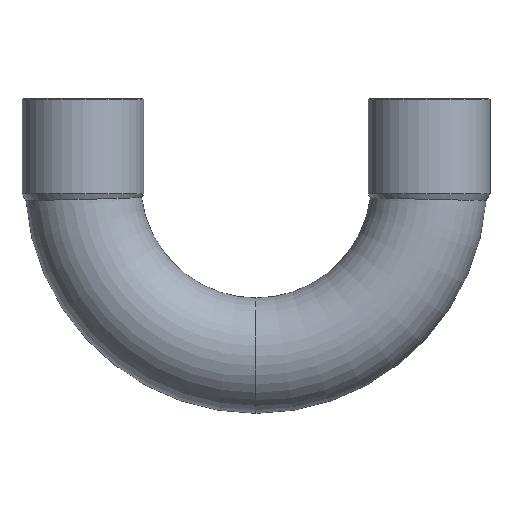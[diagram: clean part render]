
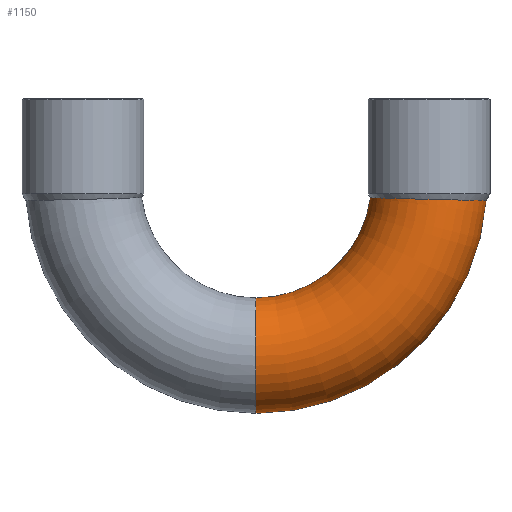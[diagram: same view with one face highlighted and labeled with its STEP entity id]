
A CAD part, front view. The second image highlights one B-rep face of the part: STEP entity #1150.
In plain terms, the highlighted toroidal (fillet/blend) face has major radius 33 mm and minor radius 11 mm.
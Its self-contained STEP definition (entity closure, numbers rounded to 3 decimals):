
#51=CARTESIAN_POINT('',(22.035,0.,-44.0));
#52=VERTEX_POINT('',#51);
#85=CARTESIAN_POINT('',(22.035,0.,-22.0));
#86=VERTEX_POINT('',#85);
#109=CARTESIAN_POINT('',(65.901,0.,-3.432));
#110=VERTEX_POINT('',#109);
#111=CARTESIAN_POINT('',(22.035,0.,0.0));
#112=DIRECTION('',(0.0,-1.0,0.0));
#113=DIRECTION('',(0.0,0.0,-1.0));
#114=AXIS2_PLACEMENT_3D('',#111,#112,#113);
#115=CIRCLE('',#114,44.0);
#116=EDGE_CURVE('',#52,#110,#115,.T.);
#119=CARTESIAN_POINT('',(43.847,0.,-2.874));
#120=VERTEX_POINT('',#119);
#121=CARTESIAN_POINT('',(22.035,0.,0.0));
#122=DIRECTION('',(0.0,1.0,0.0));
#123=DIRECTION('',(0.0,0.0,-1.0));
#124=AXIS2_PLACEMENT_3D('',#121,#122,#123);
#125=CIRCLE('',#124,22.0);
#126=EDGE_CURVE('',#120,#86,#125,.T.);
#1111=CARTESIAN_POINT('',(22.035,0.,0.0));
#1112=DIRECTION('',(0.0,-1.0,0.0));
#1113=DIRECTION('',(0.0,0.0,-1.0));
#1114=AXIS2_PLACEMENT_3D('',#1111,#1112,#1113);
#1115=TOROIDAL_SURFACE('',#1114,33.0,11.0);
#1116=ORIENTED_EDGE('',*,*,#116,.T.);
#1117=CARTESIAN_POINT('',(65.901,0.,-3.432));
#1118=CARTESIAN_POINT('',(65.901,-0.81,-3.432));
#1119=CARTESIAN_POINT('',(65.811,-1.618,-3.431));
#1120=CARTESIAN_POINT('',(65.456,-3.199,-3.424));
#1121=CARTESIAN_POINT('',(65.192,-3.967,-3.419));
#1122=CARTESIAN_POINT('',(64.232,-5.995,-3.401));
#1123=CARTESIAN_POINT('',(63.371,-7.158,-3.384));
#1124=CARTESIAN_POINT('',(61.25,-9.091,-3.341));
#1125=CARTESIAN_POINT('',(60.01,-9.841,-3.316));
#1126=CARTESIAN_POINT('',(57.307,-10.826,-3.256));
#1127=CARTESIAN_POINT('',(55.871,-11.049,-3.223));
#1128=CARTESIAN_POINT('',(52.995,-10.933,-3.151));
#1129=CARTESIAN_POINT('',(51.581,-10.594,-3.114));
#1130=CARTESIAN_POINT('',(48.968,-9.396,-3.04));
#1131=CARTESIAN_POINT('',(47.791,-8.549,-3.005));
#1132=CARTESIAN_POINT('',(45.834,-6.456,-2.942));
#1133=CARTESIAN_POINT('',(45.07,-5.232,-2.916));
#1134=CARTESIAN_POINT('',(44.089,-2.651,-2.882));
#1135=CARTESIAN_POINT('',(43.847,-1.331,-2.874));
#1136=CARTESIAN_POINT('',(43.847,0.,-2.874));
#1137=B_SPLINE_CURVE_WITH_KNOTS('',3,(#1117,#1118,#1119,#1120,#1121,#1122,#1123,#1124,#1125,#1126,#1127,#1128,#1129,#1130,#1131,#1132,#1133,#1134,#1135,#1136),.UNSPECIFIED.,.F.,.U.,(4,2,2,2,2,2,2,2,2,4),(-6.942,-6.698,-6.455,-6.025,-5.594,-5.163,-4.731,-4.3,-3.871,-3.471),.UNSPECIFIED.);
#1138=EDGE_CURVE('',#110,#120,#1137,.T.);
#1139=ORIENTED_EDGE('',*,*,#1138,.T.);
#1140=ORIENTED_EDGE('',*,*,#126,.T.);
#1141=CARTESIAN_POINT('',(22.035,0.,-33.0));
#1142=DIRECTION('',(-1.0,0.0,0.0));
#1143=DIRECTION('',(0.0,0.0,-1.0));
#1144=AXIS2_PLACEMENT_3D('',#1141,#1142,#1143);
#1145=CIRCLE('',#1144,11.0);
#1146=EDGE_CURVE('',#52,#86,#1145,.T.);
#1147=ORIENTED_EDGE('',*,*,#1146,.F.);
#1148=EDGE_LOOP('',(#1116,#1139,#1140,#1147));
#1149=FACE_OUTER_BOUND('',#1148,.T.);
#1150=ADVANCED_FACE('',(#1149),#1115,.T.);
